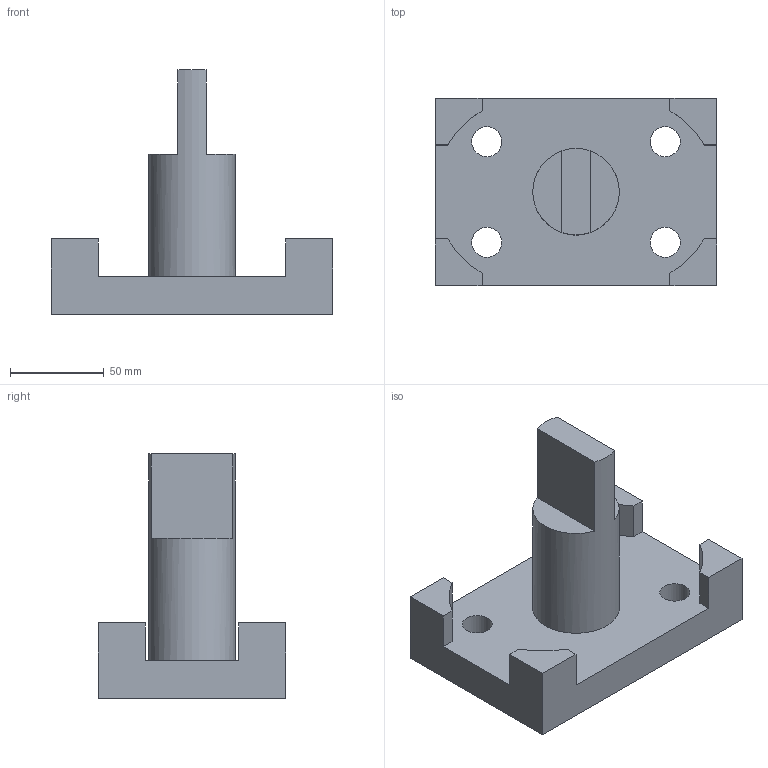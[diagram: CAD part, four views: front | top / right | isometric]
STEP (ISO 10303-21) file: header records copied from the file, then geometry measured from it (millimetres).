
FILE_DESCRIPTION(('STEP AP203'), '1');
FILE_NAME('Îñíîâàíèå âàð 8', '', ('UNSPECIFIED'), ('UNSPECIFIED'), 'C3D Converter', 'C3D Toolkit', '');
FILE_SCHEMA(('CONFIG_CONTROL_DESIGN'));
Length unit declared in the file: millimetre
Products named in the file (1): Вариант 8
Bounding box: 150 x 100 x 130 mm (x, y, z)
Volume: 456672 mm3; surface area: 64261.2 mm2
Topology: 1 solids, 1 shells, 32 faces, 87 edges, 58 vertices
Faces by surface type: plane 23, cylinder 9
Full cylindrical faces by diameter (mm): 16 x4, 46 x1
Entity records: 1300 total; most frequent: CARTESIAN_POINT 173, DIRECTION 170, ORIENTED_EDGE 164, EDGE_CURVE 82, LINE 60, VECTOR 60, VERTEX_POINT 58, AXIS2_PLACEMENT_3D 55
